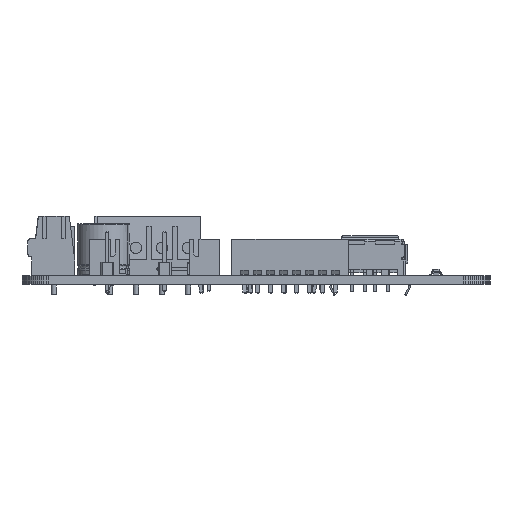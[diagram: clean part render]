
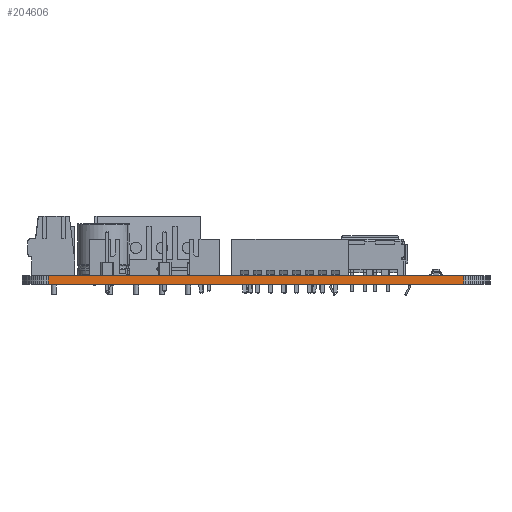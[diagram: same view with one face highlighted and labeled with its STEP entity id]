
A CAD part, front view. The second image highlights one B-rep face of the part: STEP entity #204606.
In plain terms, the highlighted planar face has unit normal (0, -1, 0).
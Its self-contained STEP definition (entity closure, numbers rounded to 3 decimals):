
#187950 = PLANE('',#187951);
#187951 = AXIS2_PLACEMENT_3D('',#187952,#187953,#187954);
#187952 = CARTESIAN_POINT('',(45.014,-39.993,1.6));
#187953 = DIRECTION('',(-0.,-0.,-1.));
#187954 = DIRECTION('',(-1.,0.,0.));
#188004 = PLANE('',#188005);
#188005 = AXIS2_PLACEMENT_3D('',#188006,#188007,#188008);
#188006 = CARTESIAN_POINT('',(45.014,-39.993,0.));
#188007 = DIRECTION('',(-0.,-0.,-1.));
#188008 = DIRECTION('',(-1.,0.,0.));
#189093 = VERTEX_POINT('',#189094);
#189094 = CARTESIAN_POINT('',(84.963,-80.01,0.));
#189108 = PLANE('',#189109);
#189109 = AXIS2_PLACEMENT_3D('',#189110,#189111,#189112);
#189110 = CARTESIAN_POINT('',(85.406,-79.994,0.));
#189111 = DIRECTION('',(0.037,-0.999,0.));
#189112 = DIRECTION('',(-0.999,-0.037,0.));
#189120 = EDGE_CURVE('',#189093,#189121,#189123,.T.);
#189121 = VERTEX_POINT('',#189122);
#189122 = CARTESIAN_POINT('',(5.08,-80.01,0.));
#189123 = SURFACE_CURVE('',#189124,(#189128,#189135),.PCURVE_S1.);
#189124 = LINE('',#189125,#189126);
#189125 = CARTESIAN_POINT('',(84.963,-80.01,0.));
#189126 = VECTOR('',#189127,1.);
#189127 = DIRECTION('',(-1.,0.,0.));
#189128 = PCURVE('',#188004,#189129);
#189129 = DEFINITIONAL_REPRESENTATION('',(#189130),#189134);
#189130 = LINE('',#189131,#189132);
#189131 = CARTESIAN_POINT('',(-39.949,-40.017));
#189132 = VECTOR('',#189133,1.);
#189133 = DIRECTION('',(1.,0.));
#189134 = ( GEOMETRIC_REPRESENTATION_CONTEXT(2) 
PARAMETRIC_REPRESENTATION_CONTEXT() REPRESENTATION_CONTEXT('2D SPACE',''
  ) );
#189135 = PCURVE('',#189136,#189141);
#189136 = PLANE('',#189137);
#189137 = AXIS2_PLACEMENT_3D('',#189138,#189139,#189140);
#189138 = CARTESIAN_POINT('',(84.963,-80.01,0.));
#189139 = DIRECTION('',(0.,-1.,0.));
#189140 = DIRECTION('',(-1.,0.,0.));
#189141 = DEFINITIONAL_REPRESENTATION('',(#189142),#189146);
#189142 = LINE('',#189143,#189144);
#189143 = CARTESIAN_POINT('',(0.,-0.));
#189144 = VECTOR('',#189145,1.);
#189145 = DIRECTION('',(1.,0.));
#189146 = ( GEOMETRIC_REPRESENTATION_CONTEXT(2) 
PARAMETRIC_REPRESENTATION_CONTEXT() REPRESENTATION_CONTEXT('2D SPACE',''
  ) );
#189164 = PLANE('',#189165);
#189165 = AXIS2_PLACEMENT_3D('',#189166,#189167,#189168);
#189166 = CARTESIAN_POINT('',(5.08,-80.01,0.));
#189167 = DIRECTION('',(-0.028,-1.,0.));
#189168 = DIRECTION('',(-1.,0.028,0.));
#196816 = VERTEX_POINT('',#196817);
#196817 = CARTESIAN_POINT('',(84.963,-80.01,1.6));
#196838 = EDGE_CURVE('',#196816,#196839,#196841,.T.);
#196839 = VERTEX_POINT('',#196840);
#196840 = CARTESIAN_POINT('',(5.08,-80.01,1.6));
#196841 = SURFACE_CURVE('',#196842,(#196846,#196853),.PCURVE_S1.);
#196842 = LINE('',#196843,#196844);
#196843 = CARTESIAN_POINT('',(84.963,-80.01,1.6));
#196844 = VECTOR('',#196845,1.);
#196845 = DIRECTION('',(-1.,0.,0.));
#196846 = PCURVE('',#187950,#196847);
#196847 = DEFINITIONAL_REPRESENTATION('',(#196848),#196852);
#196848 = LINE('',#196849,#196850);
#196849 = CARTESIAN_POINT('',(-39.949,-40.017));
#196850 = VECTOR('',#196851,1.);
#196851 = DIRECTION('',(1.,0.));
#196852 = ( GEOMETRIC_REPRESENTATION_CONTEXT(2) 
PARAMETRIC_REPRESENTATION_CONTEXT() REPRESENTATION_CONTEXT('2D SPACE',''
  ) );
#196853 = PCURVE('',#189136,#196854);
#196854 = DEFINITIONAL_REPRESENTATION('',(#196855),#196859);
#196855 = LINE('',#196856,#196857);
#196856 = CARTESIAN_POINT('',(0.,-1.6));
#196857 = VECTOR('',#196858,1.);
#196858 = DIRECTION('',(1.,0.));
#196859 = ( GEOMETRIC_REPRESENTATION_CONTEXT(2) 
PARAMETRIC_REPRESENTATION_CONTEXT() REPRESENTATION_CONTEXT('2D SPACE',''
  ) );
#204558 = EDGE_CURVE('',#189093,#196816,#204559,.T.);
#204559 = SURFACE_CURVE('',#204560,(#204564,#204571),.PCURVE_S1.);
#204560 = LINE('',#204561,#204562);
#204561 = CARTESIAN_POINT('',(84.963,-80.01,0.));
#204562 = VECTOR('',#204563,1.);
#204563 = DIRECTION('',(0.,0.,1.));
#204564 = PCURVE('',#189108,#204565);
#204565 = DEFINITIONAL_REPRESENTATION('',(#204566),#204570);
#204566 = LINE('',#204567,#204568);
#204567 = CARTESIAN_POINT('',(0.443,0.));
#204568 = VECTOR('',#204569,1.);
#204569 = DIRECTION('',(0.,-1.));
#204570 = ( GEOMETRIC_REPRESENTATION_CONTEXT(2) 
PARAMETRIC_REPRESENTATION_CONTEXT() REPRESENTATION_CONTEXT('2D SPACE',''
  ) );
#204571 = PCURVE('',#189136,#204572);
#204572 = DEFINITIONAL_REPRESENTATION('',(#204573),#204577);
#204573 = LINE('',#204574,#204575);
#204574 = CARTESIAN_POINT('',(0.,-0.));
#204575 = VECTOR('',#204576,1.);
#204576 = DIRECTION('',(0.,-1.));
#204577 = ( GEOMETRIC_REPRESENTATION_CONTEXT(2) 
PARAMETRIC_REPRESENTATION_CONTEXT() REPRESENTATION_CONTEXT('2D SPACE',''
  ) );
#204606 = ADVANCED_FACE('',(#204607),#189136,.T.);
#204607 = FACE_BOUND('',#204608,.T.);
#204608 = EDGE_LOOP('',(#204609,#204610,#204611,#204632));
#204609 = ORIENTED_EDGE('',*,*,#204558,.T.);
#204610 = ORIENTED_EDGE('',*,*,#196838,.T.);
#204611 = ORIENTED_EDGE('',*,*,#204612,.F.);
#204612 = EDGE_CURVE('',#189121,#196839,#204613,.T.);
#204613 = SURFACE_CURVE('',#204614,(#204618,#204625),.PCURVE_S1.);
#204614 = LINE('',#204615,#204616);
#204615 = CARTESIAN_POINT('',(5.08,-80.01,0.));
#204616 = VECTOR('',#204617,1.);
#204617 = DIRECTION('',(0.,0.,1.));
#204618 = PCURVE('',#189136,#204619);
#204619 = DEFINITIONAL_REPRESENTATION('',(#204620),#204624);
#204620 = LINE('',#204621,#204622);
#204621 = CARTESIAN_POINT('',(79.883,0.));
#204622 = VECTOR('',#204623,1.);
#204623 = DIRECTION('',(0.,-1.));
#204624 = ( GEOMETRIC_REPRESENTATION_CONTEXT(2) 
PARAMETRIC_REPRESENTATION_CONTEXT() REPRESENTATION_CONTEXT('2D SPACE',''
  ) );
#204625 = PCURVE('',#189164,#204626);
#204626 = DEFINITIONAL_REPRESENTATION('',(#204627),#204631);
#204627 = LINE('',#204628,#204629);
#204628 = CARTESIAN_POINT('',(0.,0.));
#204629 = VECTOR('',#204630,1.);
#204630 = DIRECTION('',(0.,-1.));
#204631 = ( GEOMETRIC_REPRESENTATION_CONTEXT(2) 
PARAMETRIC_REPRESENTATION_CONTEXT() REPRESENTATION_CONTEXT('2D SPACE',''
  ) );
#204632 = ORIENTED_EDGE('',*,*,#189120,.F.);
